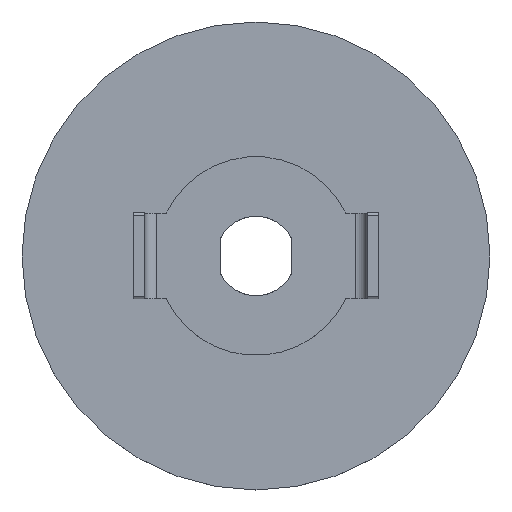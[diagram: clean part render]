
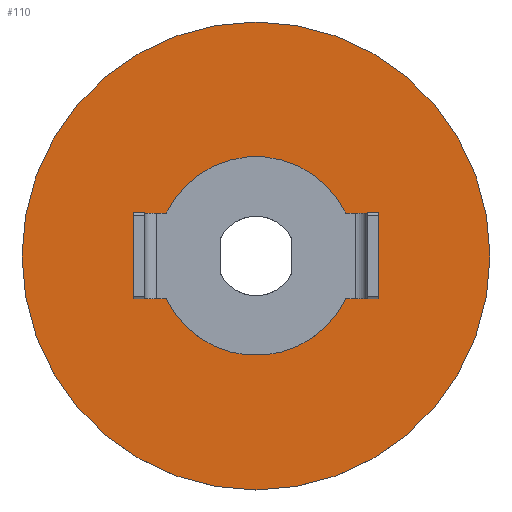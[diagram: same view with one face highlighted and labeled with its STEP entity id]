
A CAD part, top view. The second image highlights one B-rep face of the part: STEP entity #110.
In plain terms, the highlighted planar face has unit normal (0, 0, 1).
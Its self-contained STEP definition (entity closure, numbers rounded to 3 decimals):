
#19 = DIRECTION ( 'NONE',  ( 1., 0., 0. ) ) ;
#38 = EDGE_CURVE ( 'NONE', #291, #370, #317, .T. ) ;
#54 = AXIS2_PLACEMENT_3D ( 'NONE', #945, #440, #1027 ) ;
#107 = CARTESIAN_POINT ( 'NONE',  ( 30., 0., 1.5 ) ) ;
#110 = ADVANCED_FACE ( 'NONE', ( #836, #1314 ), #353, .T. ) ;
#126 = CIRCLE ( 'NONE', #361, 5.1 ) ;
#141 = EDGE_CURVE ( 'NONE', #328, #580, #126, .T. ) ;
#171 = EDGE_CURVE ( 'NONE', #370, #291, #419, .T. ) ;
#178 = DIRECTION ( 'NONE',  ( 1., 0., 0. ) ) ;
#257 = CARTESIAN_POINT ( 'NONE',  ( 0., 0., 1.5 ) ) ;
#291 = VERTEX_POINT ( 'NONE', #611 ) ;
#315 = DIRECTION ( 'NONE',  ( 0., 0., 1. ) ) ;
#317 = CIRCLE ( 'NONE', #54, 30. ) ;
#328 = VERTEX_POINT ( 'NONE', #1236 ) ;
#353 = PLANE ( 'NONE',  #423 ) ;
#361 = AXIS2_PLACEMENT_3D ( 'NONE', #1082, #315, #503 ) ;
#370 = VERTEX_POINT ( 'NONE', #107 ) ;
#375 = AXIS2_PLACEMENT_3D ( 'NONE', #257, #557, #19 ) ;
#415 = ORIENTED_EDGE ( 'NONE', *, *, #141, .F. ) ;
#419 = CIRCLE ( 'NONE', #891, 30. ) ;
#423 = AXIS2_PLACEMENT_3D ( 'NONE', #1043, #1031, #455 ) ;
#440 = DIRECTION ( 'NONE',  ( 0., 0., 1. ) ) ;
#455 = DIRECTION ( 'NONE',  ( 1., 0., 0. ) ) ;
#503 = DIRECTION ( 'NONE',  ( 1., 0., 0. ) ) ;
#557 = DIRECTION ( 'NONE',  ( 0., 0., 1. ) ) ;
#567 = EDGE_CURVE ( 'NONE', #580, #328, #1282, .T. ) ;
#580 = VERTEX_POINT ( 'NONE', #649 ) ;
#611 = CARTESIAN_POINT ( 'NONE',  ( -30., 0., 1.5 ) ) ;
#649 = CARTESIAN_POINT ( 'NONE',  ( -5.1, 0., 1.5 ) ) ;
#791 = ORIENTED_EDGE ( 'NONE', *, *, #171, .T. ) ;
#836 = FACE_BOUND ( 'NONE', #862, .T. ) ;
#862 = EDGE_LOOP ( 'NONE', ( #1301, #415 ) ) ;
#888 = CARTESIAN_POINT ( 'NONE',  ( 0., 0., 1.5 ) ) ;
#891 = AXIS2_PLACEMENT_3D ( 'NONE', #888, #1194, #178 ) ;
#916 = ORIENTED_EDGE ( 'NONE', *, *, #38, .T. ) ;
#945 = CARTESIAN_POINT ( 'NONE',  ( 0., 0., 1.5 ) ) ;
#1027 = DIRECTION ( 'NONE',  ( 1., 0., 0. ) ) ;
#1031 = DIRECTION ( 'NONE',  ( 0., 0., 1. ) ) ;
#1043 = CARTESIAN_POINT ( 'NONE',  ( 0., 0., 1.5 ) ) ;
#1077 = EDGE_LOOP ( 'NONE', ( #916, #791 ) ) ;
#1082 = CARTESIAN_POINT ( 'NONE',  ( 0., 0., 1.5 ) ) ;
#1194 = DIRECTION ( 'NONE',  ( 0., 0., 1. ) ) ;
#1236 = CARTESIAN_POINT ( 'NONE',  ( 5.1, 0., 1.5 ) ) ;
#1282 = CIRCLE ( 'NONE', #375, 5.1 ) ;
#1301 = ORIENTED_EDGE ( 'NONE', *, *, #567, .F. ) ;
#1314 = FACE_OUTER_BOUND ( 'NONE', #1077, .T. ) ;
